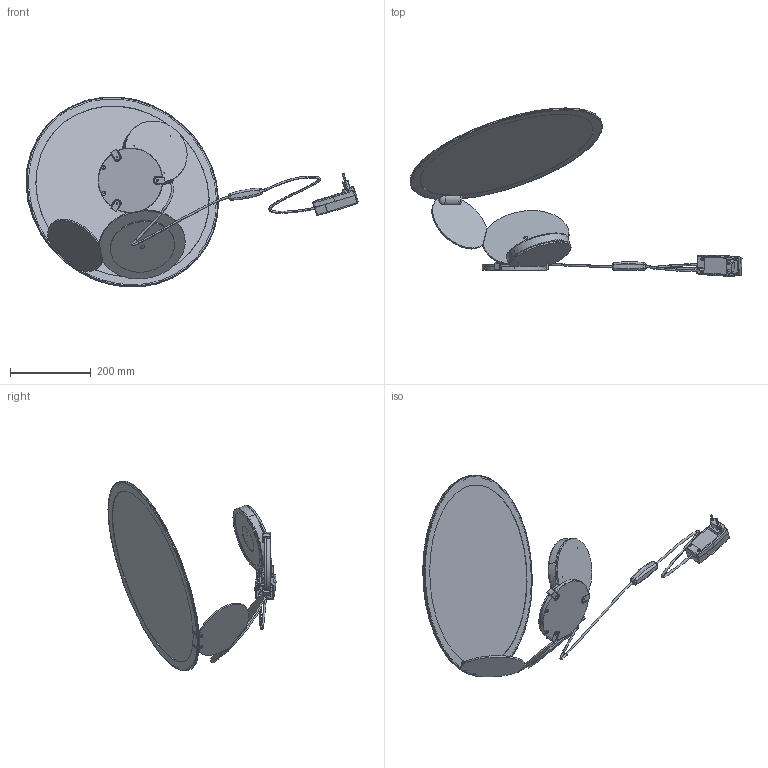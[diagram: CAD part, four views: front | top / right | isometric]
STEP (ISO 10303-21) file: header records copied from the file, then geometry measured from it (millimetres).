
FILE_DESCRIPTION (( 'STEP AP203' ), '1' );
FILE_NAME ('CUT-TABLE_2.STEP', '2019-07-25T14:26:40', ( '' ), ( '' ), 'SwSTEP 2.0', 'SolidWorks 2019', '' );
FILE_SCHEMA (( 'CONFIG_CONTROL_DESIGN' ));
Length unit declared in the file: millimetre
Products named in the file (26): AXO067E-CUTLightBlock_12LED.STEP; AXO067-22_CUTFrameSpacer.STEP; AXO067-12_CUTTableBase.STEP; nipple_SACLA_CoronaPiana_12291_nikelato.STEP; Cablaggio Tavolo^AXO067A_CUT-TABLE.STEP; driver_led_multi_20W_RELCO_RN1515N_EU.STEP; AXO067-05_CUTHeatsinkLock.STEP; AXO067-06_CUTLensPlate.STEP; AXO067-07_CUTDisc.STEP; AXO067F_CUT_default.STEP; piedino_silicone__10.STEP; AXO067-04_CUTHeatsink.STEP; Grano_EI_punta_conica_M4_UNI5927_H05.STEP; CUT-TABLE_2.STEP; pulsante_push_RELCO-RL7151.STEP; AXO067-03_CUTFrameHolder.STEP; AXO067-02_CUTFramePin.STEP; AXO067-10_CUTRingSupport.STEP; AXO067-15_CUTFeltroInterfaccia.STEP; lente_protezione__67_EA_LM067.STEP; AXO067-01_CUTFrame_Default_As Machined_.STEP; CUT-TABLE_2; AXO067-08_CUTTopRing.STEP; AXO067D-CUT_Frame.STEP; AXO067-11_CUTBracket_CNC.STEP; AXO067-09_CUTBottomRing.STEP
Assembly tree (30 placements, depth 5):
  CUT-TABLE_2
    CUT-TABLE_2.STEP
      AXO067F_CUT_default.STEP
        AXO067D-CUT_Frame.STEP
          AXO067-01_CUTFrame_Default_As Machined_.STEP
          AXO067-02_CUTFramePin.STEP
          AXO067-03_CUTFrameHolder.STEP
          AXO067-22_CUTFrameSpacer.STEP
        AXO067E-CUTLightBlock_12LED.STEP
          AXO067-04_CUTHeatsink.STEP
          AXO067-05_CUTHeatsinkLock.STEP
          AXO067-06_CUTLensPlate.STEP
          nipple_SACLA_CoronaPiana_12291_nikelato.STEP
          lente_protezione__67_EA_LM067.STEP
        AXO067-07_CUTDisc.STEP
        AXO067-08_CUTTopRing.STEP
        AXO067-09_CUTBottomRing.STEP
        AXO067-10_CUTRingSupport.STEP
      AXO067-11_CUTBracket_CNC.STEP  x3
      AXO067-12_CUTTableBase.STEP
      AXO067-15_CUTFeltroInterfaccia.STEP
      Cablaggio Tavolo^AXO067A_CUT-TABLE.STEP
      Grano_EI_punta_conica_M4_UNI5927_H05.STEP  x3
      pulsante_push_RELCO-RL7151.STEP
      driver_led_multi_20W_RELCO_RN1515N_EU.STEP
      piedino_silicone__10.STEP  x2
Bounding box: 822.57 x 416.31 x 470.56 mm (x, y, z)
Volume: 1802400 mm3; surface area: 1027414 mm2
Topology: 28 solids, 28 shells, 871 faces, 2067 edges, 1278 vertices
Faces by surface type: plane 304, cylinder 281, cone 177, bspline 48, sphere 34, torus 27
Entity records: 36890 total; most frequent: CARTESIAN_POINT 16096, DIRECTION 3848, ORIENTED_EDGE 3672, EDGE_CURVE 1836, AXIS2_PLACEMENT_3D 1560, VERTEX_POINT 1154, EDGE_LOOP 884, CIRCLE 795
